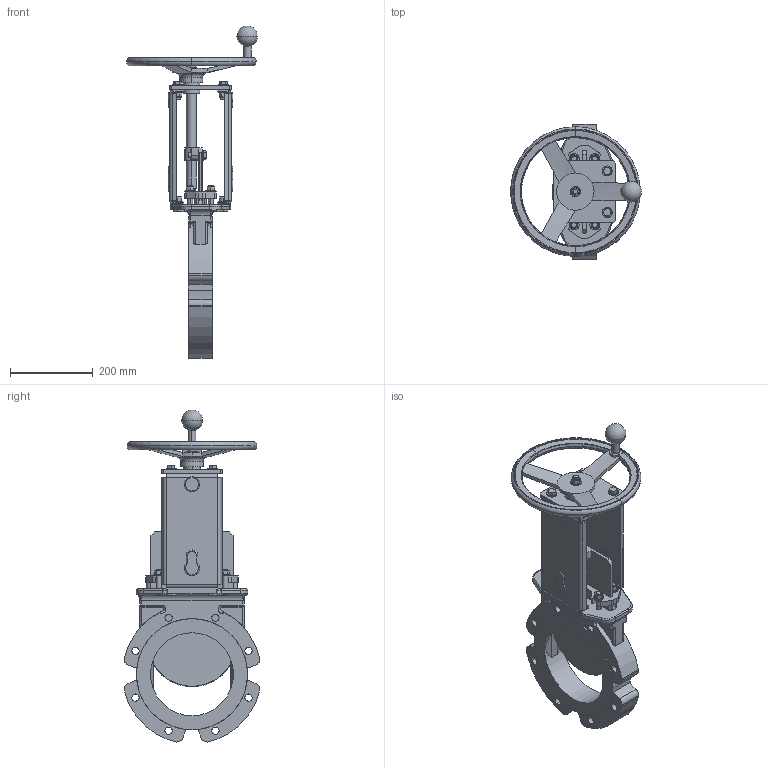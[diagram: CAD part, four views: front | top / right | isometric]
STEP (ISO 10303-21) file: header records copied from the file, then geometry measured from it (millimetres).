
FILE_DESCRIPTION(('STEP AP203'),'1');
FILE_NAME('G:/KONSTRUK/3-d block för CD/WB VALVE/HAND WHEEL/200/WB14-DN200-HW.stp','2012-11-30T13:07:21',(' '),(' '),'Spatial InterOp 3D',' ',' ');
FILE_SCHEMA(('CONFIG_CONTROL_DESIGN'));
Length unit declared in the file: millimetre
Products named in the file (7): 1; 2; 3; 4; 5; 6; 7
Bounding box: 316.03 x 327.04 x 800.69 mm (x, y, z)
Volume: 6032381.2 mm3; surface area: 887983.2 mm2
Topology: 7 solids, 15 shells, 1127 faces, 2726 edges, 1703 vertices
Faces by surface type: plane 462, cylinder 338, cone 251, torus 66, sphere 6, bspline 4
Entity records: 37031 total; most frequent: CARTESIAN_POINT 10181, DIRECTION 5715, ORIENTED_EDGE 5436, EDGE_CURVE 2718, AXIS2_PLACEMENT_3D 2263, VERTEX_POINT 1703, EDGE_LOOP 1263, LINE 1189
